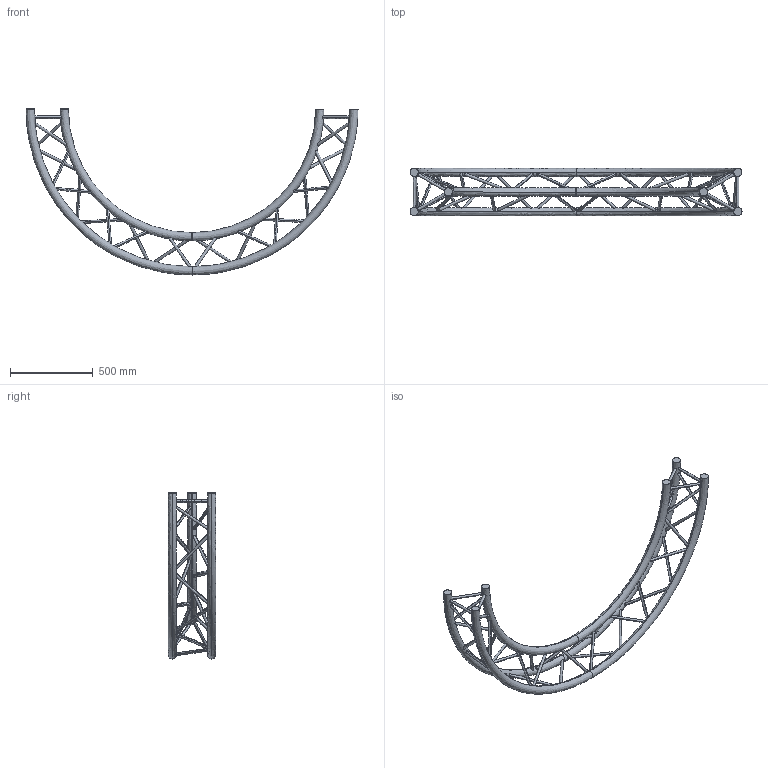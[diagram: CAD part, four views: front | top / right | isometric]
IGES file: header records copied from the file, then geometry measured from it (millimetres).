
Start section: SolidWorks IGES file using analytic representation for surfaces
Global section: file name: K:\BIBLIO\asd_biblio\SX290\Cercles\SXC29PI\SXC29200PI\SXC29200PI.IGS; native system: SolidWorks 2009; preprocessor: SolidWorks 2009; author: des3; date: 091021.105639; units: millimetre
Bounding box: 2000 x 287 x 1000 mm (x, y, z)
Surface area: 1846935.2 mm2 (no closed solid volume)
Topology: 0 solids, 0 shells, 102 faces, 6644 edges, 6644 vertices
Faces by surface type: revolution 84, bspline 18
